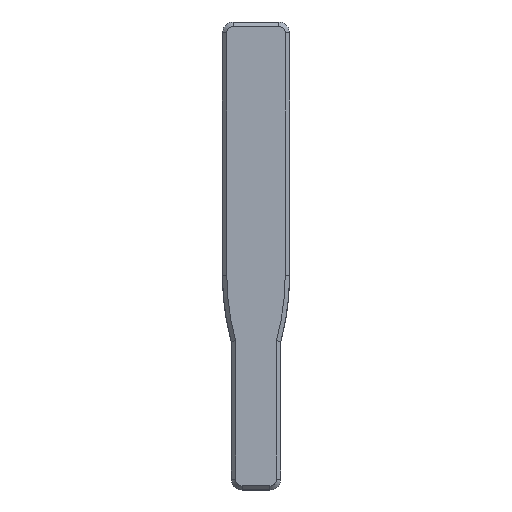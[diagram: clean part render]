
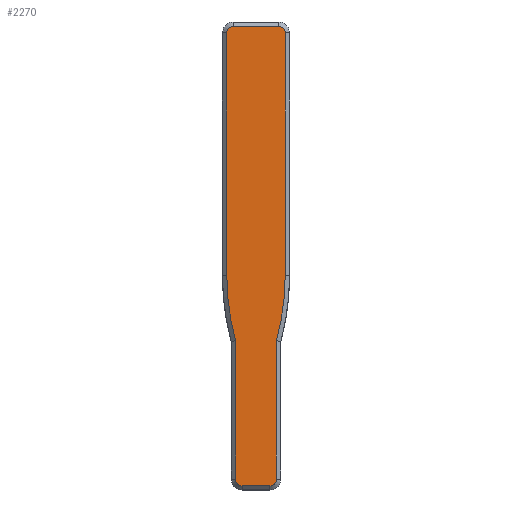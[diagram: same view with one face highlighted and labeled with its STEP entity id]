
A CAD part, top view. The second image highlights one B-rep face of the part: STEP entity #2270.
In plain terms, the highlighted planar face has unit normal (0, 0, 1).
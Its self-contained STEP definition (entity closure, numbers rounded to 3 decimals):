
#22 = DIRECTION ( 'NONE',  ( 0., -1., 0. ) ) ;
#32 = EDGE_CURVE ( 'NONE', #2044, #1718, #1411, .T. ) ;
#89 = CIRCLE ( 'NONE', #989, 34.4 ) ;
#109 = DIRECTION ( 'NONE',  ( 1., 0., 0. ) ) ;
#139 = VERTEX_POINT ( 'NONE', #609 ) ;
#191 = DIRECTION ( 'NONE',  ( 0., 0., 1. ) ) ;
#203 = CARTESIAN_POINT ( 'NONE',  ( -7.25, -32.446, 21.045 ) ) ;
#218 = CARTESIAN_POINT ( 'NONE',  ( -3.45, -31.546, 21.045 ) ) ;
#225 = CARTESIAN_POINT ( 'NONE',  ( -1.35, -33.046, 21.045 ) ) ;
#249 = CARTESIAN_POINT ( 'NONE',  ( -2.55, -31.546, 21.045 ) ) ;
#282 = DIRECTION ( 'NONE',  ( 0., 0., 1. ) ) ;
#338 = EDGE_CURVE ( 'NONE', #1758, #2044, #89, .T. ) ;
#343 = EDGE_CURVE ( 'NONE', #2596, #872, #1435, .T. ) ;
#355 = VECTOR ( 'NONE', #2896, 1000. ) ;
#385 = EDGE_CURVE ( 'NONE', #2147, #2224, #2932, .T. ) ;
#428 = DIRECTION ( 'NONE',  ( 0., -1., 0. ) ) ;
#437 = LINE ( 'NONE', #1348, #355 ) ;
#439 = CARTESIAN_POINT ( 'NONE',  ( -0.75, -33.046, 21.045 ) ) ;
#441 = CARTESIAN_POINT ( 'NONE',  ( -8.15, -31.546, 21.045 ) ) ;
#454 = CARTESIAN_POINT ( 'NONE',  ( 25.05, -3.599, 21.045 ) ) ;
#466 = EDGE_CURVE ( 'NONE', #1349, #139, #437, .T. ) ;
#467 = DIRECTION ( 'NONE',  ( 1., 0., 0. ) ) ;
#491 = AXIS2_PLACEMENT_3D ( 'NONE', #2543, #1214, #2750 ) ;
#524 = VERTEX_POINT ( 'NONE', #2260 ) ;
#609 = CARTESIAN_POINT ( 'NONE',  ( -3.45, -32.446, 21.045 ) ) ;
#686 = DIRECTION ( 'NONE',  ( 0., 0., 1. ) ) ;
#772 = LINE ( 'NONE', #225, #2517 ) ;
#781 = VECTOR ( 'NONE', #1415, 1000. ) ;
#788 = AXIS2_PLACEMENT_3D ( 'NONE', #2164, #801, #2389 ) ;
#789 = VERTEX_POINT ( 'NONE', #249 ) ;
#801 = DIRECTION ( 'NONE',  ( 0., 0., 1. ) ) ;
#829 = CARTESIAN_POINT ( 'NONE',  ( -2.55, -12.605, 21.045 ) ) ;
#866 = LINE ( 'NONE', #1195, #781 ) ;
#868 = VECTOR ( 'NONE', #428, 1000. ) ;
#872 = VERTEX_POINT ( 'NONE', #2816 ) ;
#902 = AXIS2_PLACEMENT_3D ( 'NONE', #1689, #282, #1918 ) ;
#948 = VERTEX_POINT ( 'NONE', #1063 ) ;
#978 = DIRECTION ( 'NONE',  ( 1., 0., 0. ) ) ;
#989 = AXIS2_PLACEMENT_3D ( 'NONE', #454, #191, #978 ) ;
#1051 = LINE ( 'NONE', #2125, #2743 ) ;
#1063 = CARTESIAN_POINT ( 'NONE',  ( -1.35, 29.6, 21.045 ) ) ;
#1116 = DIRECTION ( 'NONE',  ( 0., 0., 1. ) ) ;
#1142 = AXIS2_PLACEMENT_3D ( 'NONE', #439, #686, #2289 ) ;
#1165 = AXIS2_PLACEMENT_3D ( 'NONE', #218, #1853, #467 ) ;
#1195 = CARTESIAN_POINT ( 'NONE',  ( -2.55, -12.685, 21.045 ) ) ;
#1212 = CARTESIAN_POINT ( 'NONE',  ( -35.75, -3.599, 21.045 ) ) ;
#1214 = DIRECTION ( 'NONE',  ( 0., 0., 1. ) ) ;
#1301 = AXIS2_PLACEMENT_3D ( 'NONE', #1212, #1116, #109 ) ;
#1318 = DIRECTION ( 'NONE',  ( -1., 0., 0. ) ) ;
#1348 = CARTESIAN_POINT ( 'NONE',  ( -3.45, -32.446, 21.045 ) ) ;
#1349 = VERTEX_POINT ( 'NONE', #203 ) ;
#1377 = EDGE_CURVE ( 'NONE', #789, #2596, #866, .T. ) ;
#1406 = CARTESIAN_POINT ( 'NONE',  ( -2.25, 30.5, 21.045 ) ) ;
#1411 = LINE ( 'NONE', #441, #868 ) ;
#1412 = EDGE_CURVE ( 'NONE', #948, #2147, #2454, .T. ) ;
#1415 = DIRECTION ( 'NONE',  ( 0., 1., 0. ) ) ;
#1435 = CIRCLE ( 'NONE', #1301, 34.4 ) ;
#1481 = CARTESIAN_POINT ( 'NONE',  ( -9.35, -3.599, 21.045 ) ) ;
#1513 = EDGE_CURVE ( 'NONE', #524, #1758, #1051, .T. ) ;
#1544 = CIRCLE ( 'NONE', #788, 0.9 ) ;
#1572 = CARTESIAN_POINT ( 'NONE',  ( -8.15, -12.605, 21.045 ) ) ;
#1689 = CARTESIAN_POINT ( 'NONE',  ( -8.45, 29.6, 21.045 ) ) ;
#1698 = CIRCLE ( 'NONE', #902, 0.9 ) ;
#1717 = ORIENTED_EDGE ( 'NONE', *, *, #32, .T. ) ;
#1718 = VERTEX_POINT ( 'NONE', #2580 ) ;
#1747 = VECTOR ( 'NONE', #1318, 1000. ) ;
#1758 = VERTEX_POINT ( 'NONE', #1481 ) ;
#1772 = EDGE_CURVE ( 'NONE', #1718, #1349, #1544, .T. ) ;
#1828 = PLANE ( 'NONE',  #1142 ) ;
#1853 = DIRECTION ( 'NONE',  ( 0., 0., 1. ) ) ;
#1891 = ORIENTED_EDGE ( 'NONE', *, *, #1772, .T. ) ;
#1918 = DIRECTION ( 'NONE',  ( 1., 0., 0. ) ) ;
#1968 = ORIENTED_EDGE ( 'NONE', *, *, #466, .T. ) ;
#2044 = VERTEX_POINT ( 'NONE', #1572 ) ;
#2125 = CARTESIAN_POINT ( 'NONE',  ( -9.35, -3.599, 21.045 ) ) ;
#2135 = ORIENTED_EDGE ( 'NONE', *, *, #385, .T. ) ;
#2147 = VERTEX_POINT ( 'NONE', #1406 ) ;
#2164 = CARTESIAN_POINT ( 'NONE',  ( -7.25, -31.546, 21.045 ) ) ;
#2219 = ORIENTED_EDGE ( 'NONE', *, *, #2472, .T. ) ;
#2224 = VERTEX_POINT ( 'NONE', #2259 ) ;
#2259 = CARTESIAN_POINT ( 'NONE',  ( -8.45, 30.5, 21.045 ) ) ;
#2260 = CARTESIAN_POINT ( 'NONE',  ( -9.35, 29.6, 21.045 ) ) ;
#2270 = ADVANCED_FACE ( 'NONE', ( #2862 ), #1828, .T. ) ;
#2289 = DIRECTION ( 'NONE',  ( 1., 0., 0. ) ) ;
#2315 = ORIENTED_EDGE ( 'NONE', *, *, #1513, .T. ) ;
#2327 = EDGE_CURVE ( 'NONE', #139, #789, #2655, .T. ) ;
#2357 = EDGE_LOOP ( 'NONE', ( #1717, #1891, #1968, #2694, #2696, #2720, #2759, #2839, #2135, #2219, #2315, #2391 ) ) ;
#2364 = EDGE_CURVE ( 'NONE', #872, #948, #772, .T. ) ;
#2389 = DIRECTION ( 'NONE',  ( 1., 0., 0. ) ) ;
#2391 = ORIENTED_EDGE ( 'NONE', *, *, #338, .T. ) ;
#2429 = CARTESIAN_POINT ( 'NONE',  ( -0.75, 30.5, 21.045 ) ) ;
#2454 = CIRCLE ( 'NONE', #491, 0.9 ) ;
#2472 = EDGE_CURVE ( 'NONE', #2224, #524, #1698, .T. ) ;
#2517 = VECTOR ( 'NONE', #2972, 1000. ) ;
#2543 = CARTESIAN_POINT ( 'NONE',  ( -2.25, 29.6, 21.045 ) ) ;
#2580 = CARTESIAN_POINT ( 'NONE',  ( -8.15, -31.546, 21.045 ) ) ;
#2596 = VERTEX_POINT ( 'NONE', #829 ) ;
#2655 = CIRCLE ( 'NONE', #1165, 0.9 ) ;
#2694 = ORIENTED_EDGE ( 'NONE', *, *, #2327, .T. ) ;
#2696 = ORIENTED_EDGE ( 'NONE', *, *, #1377, .T. ) ;
#2720 = ORIENTED_EDGE ( 'NONE', *, *, #343, .T. ) ;
#2743 = VECTOR ( 'NONE', #22, 1000. ) ;
#2750 = DIRECTION ( 'NONE',  ( 1., 0., 0. ) ) ;
#2759 = ORIENTED_EDGE ( 'NONE', *, *, #2364, .T. ) ;
#2816 = CARTESIAN_POINT ( 'NONE',  ( -1.35, -3.599, 21.045 ) ) ;
#2839 = ORIENTED_EDGE ( 'NONE', *, *, #1412, .T. ) ;
#2862 = FACE_OUTER_BOUND ( 'NONE', #2357, .T. ) ;
#2896 = DIRECTION ( 'NONE',  ( 1., 0., 0. ) ) ;
#2932 = LINE ( 'NONE', #2429, #1747 ) ;
#2972 = DIRECTION ( 'NONE',  ( 0., 1., 0. ) ) ;
